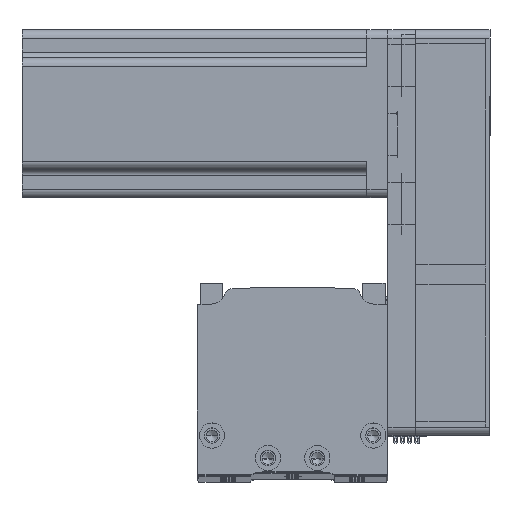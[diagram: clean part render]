
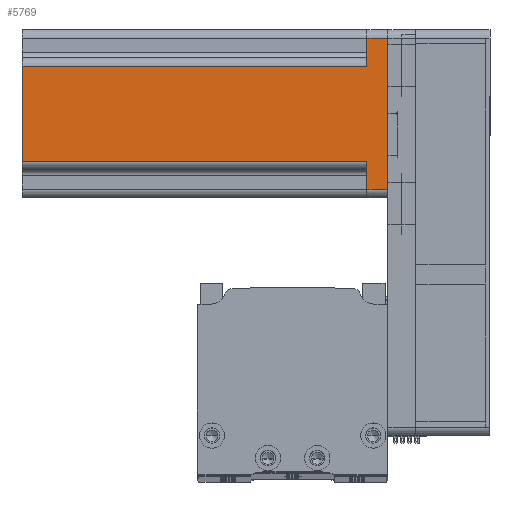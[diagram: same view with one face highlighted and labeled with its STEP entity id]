
A CAD part, top view. The second image highlights one B-rep face of the part: STEP entity #5769.
In plain terms, the highlighted planar face has unit normal (0, 0, 1) as drawn and (0, -1, 0) by its records, which use the part's own axes.
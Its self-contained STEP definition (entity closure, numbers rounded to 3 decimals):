
#67 = VERTEX_POINT ( 'NONE', #2491 ) ;
#194 = AXIS2_PLACEMENT_3D ( 'NONE', #17061, #48145, #21513 ) ;
#1362 = LINE ( 'NONE', #4142, #23642 ) ;
#1750 = EDGE_CURVE ( 'NONE', #19043, #1794, #24095, .T. ) ;
#1794 = VERTEX_POINT ( 'NONE', #51893 ) ;
#1843 = CARTESIAN_POINT ( 'NONE',  ( -27., -30., 130.7 ) ) ;
#2472 = LINE ( 'NONE', #30555, #29616 ) ;
#2491 = CARTESIAN_POINT ( 'NONE',  ( 27., -30., 7.5 ) ) ;
#3208 = LINE ( 'NONE', #4484, #37311 ) ;
#4142 = CARTESIAN_POINT ( 'NONE',  ( 30., -30., 130.7 ) ) ;
#4484 = CARTESIAN_POINT ( 'NONE',  ( 17., -30., 130.7 ) ) ;
#5142 = ORIENTED_EDGE ( 'NONE', *, *, #11858, .T. ) ;
#5769 = ADVANCED_FACE ( 'NONE', ( #29364 ), #56846, .F. ) ;
#5790 = ORIENTED_EDGE ( 'NONE', *, *, #20852, .T. ) ;
#6646 = CARTESIAN_POINT ( 'NONE',  ( 17., -30., 130.7 ) ) ;
#9046 = EDGE_LOOP ( 'NONE', ( #14671, #55946, #37209, #18171, #5142, #23756, #5790, #47944 ) ) ;
#9151 = DIRECTION ( 'NONE',  ( 0., 0., 1. ) ) ;
#11110 = VERTEX_POINT ( 'NONE', #23483 ) ;
#11858 = EDGE_CURVE ( 'NONE', #24585, #11110, #52193, .T. ) ;
#11920 = DIRECTION ( 'NONE',  ( 0., 0., 1. ) ) ;
#13002 = CARTESIAN_POINT ( 'NONE',  ( -17., -30., 130.7 ) ) ;
#14371 = VERTEX_POINT ( 'NONE', #53172 ) ;
#14395 = CARTESIAN_POINT ( 'NONE',  ( -27., -30., 7.5 ) ) ;
#14671 = ORIENTED_EDGE ( 'NONE', *, *, #46075, .F. ) ;
#16718 = VERTEX_POINT ( 'NONE', #6646 ) ;
#16748 = VECTOR ( 'NONE', #53415, 1000. ) ;
#17061 = CARTESIAN_POINT ( 'NONE',  ( 30., -30., 130.7 ) ) ;
#17878 = CARTESIAN_POINT ( 'NONE',  ( 30., -30., 0. ) ) ;
#18171 = ORIENTED_EDGE ( 'NONE', *, *, #33504, .T. ) ;
#19043 = VERTEX_POINT ( 'NONE', #14395 ) ;
#20623 = CARTESIAN_POINT ( 'NONE',  ( 27., -30., 130.7 ) ) ;
#20852 = EDGE_CURVE ( 'NONE', #67, #14371, #50837, .T. ) ;
#21513 = DIRECTION ( 'NONE',  ( -1., 0., 0. ) ) ;
#23483 = CARTESIAN_POINT ( 'NONE',  ( 27., -30., 0. ) ) ;
#23642 = VECTOR ( 'NONE', #57373, 1000. ) ;
#23756 = ORIENTED_EDGE ( 'NONE', *, *, #38591, .T. ) ;
#24095 = LINE ( 'NONE', #33436, #56727 ) ;
#24585 = VERTEX_POINT ( 'NONE', #49698 ) ;
#25829 = DIRECTION ( 'NONE',  ( -1., 0., 0. ) ) ;
#27192 = VECTOR ( 'NONE', #25829, 1000. ) ;
#29364 = FACE_OUTER_BOUND ( 'NONE', #9046, .T. ) ;
#29616 = VECTOR ( 'NONE', #43945, 1000. ) ;
#30555 = CARTESIAN_POINT ( 'NONE',  ( -17., -30., 130.7 ) ) ;
#33436 = CARTESIAN_POINT ( 'NONE',  ( -20., -30., 7.5 ) ) ;
#33504 = EDGE_CURVE ( 'NONE', #19043, #24585, #49105, .T. ) ;
#33683 = EDGE_CURVE ( 'NONE', #45485, #1794, #2472, .T. ) ;
#33707 = VECTOR ( 'NONE', #11920, 1000. ) ;
#37209 = ORIENTED_EDGE ( 'NONE', *, *, #1750, .F. ) ;
#37311 = VECTOR ( 'NONE', #9151, 1000. ) ;
#38591 = EDGE_CURVE ( 'NONE', #11110, #67, #46964, .T. ) ;
#43945 = DIRECTION ( 'NONE',  ( 0., 0., -1. ) ) ;
#45485 = VERTEX_POINT ( 'NONE', #13002 ) ;
#46075 = EDGE_CURVE ( 'NONE', #45485, #16718, #1362, .T. ) ;
#46876 = DIRECTION ( 'NONE',  ( 1., 0., 0. ) ) ;
#46964 = LINE ( 'NONE', #20623, #33707 ) ;
#47944 = ORIENTED_EDGE ( 'NONE', *, *, #53365, .T. ) ;
#48145 = DIRECTION ( 'NONE',  ( 0., 1., 0. ) ) ;
#49105 = LINE ( 'NONE', #1843, #55336 ) ;
#49698 = CARTESIAN_POINT ( 'NONE',  ( -27., -30., 0. ) ) ;
#50837 = LINE ( 'NONE', #52437, #27192 ) ;
#51893 = CARTESIAN_POINT ( 'NONE',  ( -17., -30., 7.5 ) ) ;
#52193 = LINE ( 'NONE', #17878, #16748 ) ;
#52437 = CARTESIAN_POINT ( 'NONE',  ( 20., -30., 7.5 ) ) ;
#53172 = CARTESIAN_POINT ( 'NONE',  ( 17., -30., 7.5 ) ) ;
#53365 = EDGE_CURVE ( 'NONE', #14371, #16718, #3208, .T. ) ;
#53415 = DIRECTION ( 'NONE',  ( 1., 0., 0. ) ) ;
#55336 = VECTOR ( 'NONE', #55456, 1000. ) ;
#55456 = DIRECTION ( 'NONE',  ( 0., 0., -1. ) ) ;
#55946 = ORIENTED_EDGE ( 'NONE', *, *, #33683, .T. ) ;
#56727 = VECTOR ( 'NONE', #46876, 1000. ) ;
#56846 = PLANE ( 'NONE',  #194 ) ;
#57373 = DIRECTION ( 'NONE',  ( 1., 0., 0. ) ) ;
